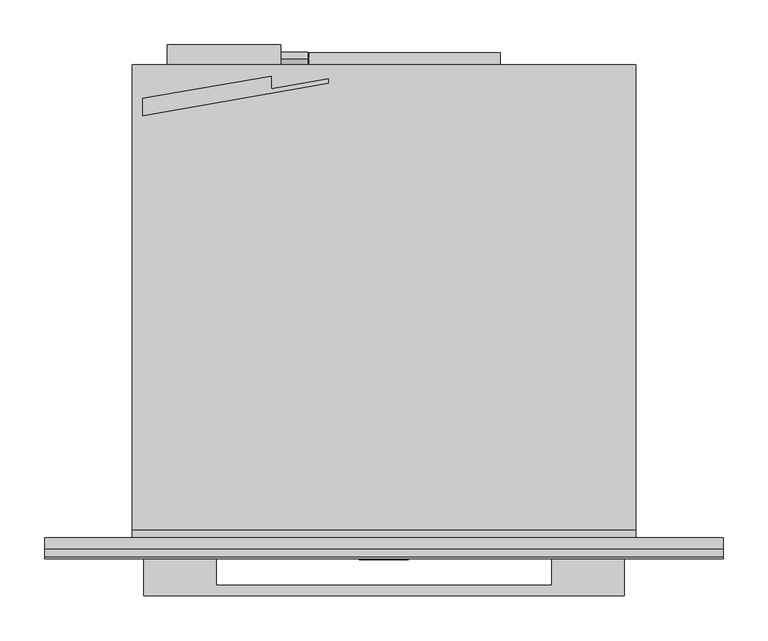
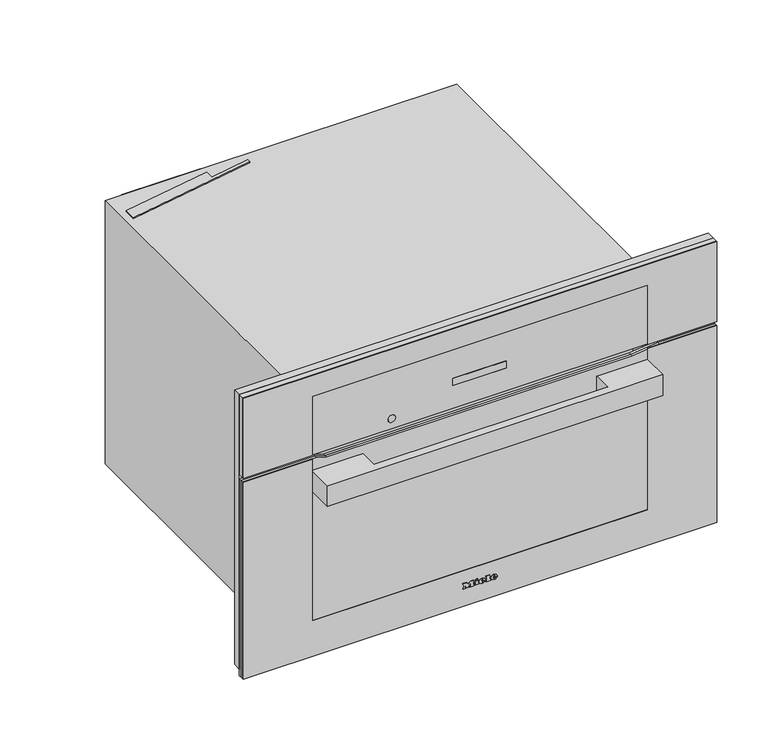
"""IFC4 building model written with IfcOpenShell, lengths in millimetres: proxy geometry, 11804470_USA_H7170BM_EDST-CLST : 22717046_USA_11804470_H7170BM_EDST-CLST."""

import ifcopenshell
import ifcopenshell.guid

model = None  # the IFC model being written
_history = None  # IfcOwnerHistory: only IFC2X3 demands one
_inside = {}  # id of a spatial element -> (the spatial element, [elements in it])
_under = {}  # id of a project, library or spatial element -> (it, [spatial elements below it])
_declared = {}  # id of a project -> (the project, [libraries it declares])
_typed = {}  # id of a type object -> (the type object, [elements of that type])
_made_of = {}  # id of a material, layer set ... -> (it, [elements and type objects made of it])


def new_model(schema):
    """Start an empty IFC model of exactly this schema.

    Asked for "IFC4X3", IfcOpenShell would pick the latest addendum, in which some entities
    have other attributes; the version numbers below select the first issue.
    IFC2X3 requires an IfcOwnerHistory on every rooted entity: one is made here for all.
    """
    global model, _history
    if schema == "IFC4X3":
        model = ifcopenshell.file(schema_version=(4, 3, 0, 0))
    else:
        model = ifcopenshell.file(schema=schema)
    _inside.clear()
    _under.clear()
    _declared.clear()
    _typed.clear()
    _made_of.clear()
    _history = None
    if model.schema == "IFC2X3":
        org = make("IfcOrganization", Name="unknown")
        user = make(
            "IfcPersonAndOrganization",
            ThePerson=make("IfcPerson", FamilyName="unknown"),
            TheOrganization=org,
        )
        app = make(
            "IfcApplication",
            ApplicationDeveloper=org,
            Version="unknown",
            ApplicationFullName="unknown",
            ApplicationIdentifier="unknown",
        )
        _history = make(
            "IfcOwnerHistory",
            OwningUser=user,
            OwningApplication=app,
            ChangeAction="ADDED",
            CreationDate=0,
        )
    return model


def make(cls, **values):
    """One entity of the class cls with the attributes given. An attribute that is None is left unset."""
    return model.create_entity(
        cls, **{name: value for name, value in values.items() if value is not None}
    )


def rooted(cls, **values):
    """An entity with a GlobalId (a new one), such as an element, a storey or a relation."""
    return make(cls, GlobalId=ifcopenshell.guid.new(), OwnerHistory=_history, **values)


def si_unit(unit_type, name, prefix=None):
    """IfcSIUnit, for example si_unit("LENGTHUNIT", "METRE", prefix="MILLI")."""
    return make("IfcSIUnit", UnitType=unit_type, Prefix=prefix, Name=name)


def assignment(units):
    """IfcUnitAssignment: the units of a project."""
    return None if units is None else make("IfcUnitAssignment", Units=units)


def point(xyz):
    """IfcCartesianPoint."""
    return None if xyz is None else make("IfcCartesianPoint", Coordinates=xyz)


def direction(xyz):
    """IfcDirection."""
    return None if xyz is None else make("IfcDirection", DirectionRatios=xyz)


def frame(location, z_axis=None, x_axis=None):
    """IfcAxis2Placement3D, a coordinate frame: its origin and axes. An axis left out is left unset."""
    return make(
        "IfcAxis2Placement3D",
        Location=point(location),
        Axis=direction(z_axis),
        RefDirection=direction(x_axis),
    )


def frame_2d(location, x_axis=None):
    """IfcAxis2Placement2D, a coordinate frame in the plane: its origin and x axis."""
    return make(
        "IfcAxis2Placement2D", Location=point(location), RefDirection=direction(x_axis)
    )


def origin():
    """The frame at (0, 0, 0) with its axes left unset."""
    return frame((0.0, 0.0, 0.0))


def place(relative_to, where):
    """IfcLocalPlacement: puts the frame where relative to a parent placement (None: the world)."""
    return make(
        "IfcLocalPlacement", PlacementRelTo=relative_to, RelativePlacement=where
    )


def context(
    kind, dimensions, precision=None, world=None, true_north=None, identifier=None
):
    """IfcGeometricRepresentationContext, for example the 3D "Model" context."""
    return make(
        "IfcGeometricRepresentationContext",
        ContextIdentifier=identifier,
        ContextType=kind,
        CoordinateSpaceDimension=dimensions,
        Precision=precision,
        WorldCoordinateSystem=world,
        TrueNorth=true_north,
    )


def project(units=None, contexts=None):
    """IfcProject with its units and contexts."""
    return rooted(
        "IfcProject",
        Name="project",
        RepresentationContexts=contexts,
        UnitsInContext=assignment(units),
    )


def spatial(cls, under=None, at=None, **own):
    """A site, building, storey or space (cls), placed at a placement, below another one or the project."""
    s = rooted(cls, ObjectPlacement=at, **own)
    if under is not None:
        _under.setdefault(under.id(), (under, []))[1].append(s)
    return s


def polyline(points):
    """IfcPolyline through the points."""
    return make("IfcPolyline", Points=[point(p) for p in points])


def circle_curve(where, radius):
    """IfcCircle in the frame where."""
    return make("IfcCircle", Position=where, Radius=radius)


def ellipse_curve(where, semi_axis1, semi_axis2):
    """IfcEllipse in the frame where."""
    return make(
        "IfcEllipse", Position=where, SemiAxis1=semi_axis1, SemiAxis2=semi_axis2
    )


def trimmed(basis, trim1, trim2, sense, master):
    """IfcTrimmedCurve: the piece of a basis curve between two trims."""
    return make(
        "IfcTrimmedCurve",
        BasisCurve=basis,
        Trim1=trim1,
        Trim2=trim2,
        SenseAgreement=sense,
        MasterRepresentation=master,
    )


def segment(curve, same_sense, transition):
    """IfcCompositeCurveSegment."""
    return make(
        "IfcCompositeCurveSegment",
        Transition=transition,
        SameSense=same_sense,
        ParentCurve=curve,
    )


def composite_curve(segments, self_intersect=None):
    """IfcCompositeCurve: segments joined end to end."""
    return make("IfcCompositeCurve", Segments=segments, SelfIntersect=self_intersect)


def outline(outer, holes=None, kind="AREA"):
    """IfcArbitraryClosedProfileDef: a profile drawn as a closed curve; with holes, ...WithVoids."""
    if holes is None:
        return make("IfcArbitraryClosedProfileDef", ProfileType=kind, OuterCurve=outer)
    return make(
        "IfcArbitraryProfileDefWithVoids",
        ProfileType=kind,
        OuterCurve=outer,
        InnerCurves=holes,
    )


def extrude(swept, where, along, depth):
    """IfcExtrudedAreaSolid: the profile swept, set in the frame where, extruded along a direction by depth."""
    return make(
        "IfcExtrudedAreaSolid",
        SweptArea=swept,
        Position=where,
        ExtrudedDirection=direction(along),
        Depth=depth,
    )


def faces_of(points, faces, orient=None, outer=None):
    """IfcFace entities. A face is a list of loops; a loop is a list of indices into points, from 0.

    orient and outer hold one flag for each loop. By default every Orientation is true, the
    first loop of a face is its IfcFaceOuterBound and the others are IfcFaceBound.
    """
    made = []
    for i, loops in enumerate(faces):
        bounds = []
        for j, loop in enumerate(loops):
            is_outer = j == 0 if outer is None else outer[i][j]
            bounds.append(
                make(
                    "IfcFaceOuterBound" if is_outer else "IfcFaceBound",
                    Bound=make("IfcPolyLoop", Polygon=[points[k] for k in loop]),
                    Orientation=True if orient is None else orient[i][j],
                )
            )
        made.append(make("IfcFace", Bounds=bounds))
    return made


def faceted_brep(points, faces, orient=None, outer=None, voids=None):
    """IfcFacetedBrep: a solid bounded by flat faces; with voids (closed shells), ...WithVoids."""
    shared = [point(p) for p in points]
    hull = make("IfcClosedShell", CfsFaces=faces_of(shared, faces, orient, outer))
    if voids is None:
        return make("IfcFacetedBrep", Outer=hull)
    return make(
        "IfcFacetedBrepWithVoids",
        Outer=hull,
        Voids=[
            make(cls, CfsFaces=faces_of(shared, fs, o, b)) for cls, fs, o, b in voids
        ],
    )


def shape(context_of_items, identifier, shape_type, items):
    """IfcShapeRepresentation: the items that make up one representation, for example the "Body"."""
    return make(
        "IfcShapeRepresentation",
        ContextOfItems=context_of_items,
        RepresentationIdentifier=identifier,
        RepresentationType=shape_type,
        Items=items,
    )


def source(mapping_origin, context_of_items, identifier, shape_type, items):
    """IfcRepresentationMap: a shape defined once, which mapped items show again and again."""
    return make(
        "IfcRepresentationMap",
        MappingOrigin=mapping_origin,
        MappedRepresentation=shape(context_of_items, identifier, shape_type, items),
    )


def transform(
    local_origin,
    x_axis=None,
    y_axis=None,
    z_axis=None,
    scale=None,
    scale2=None,
    scale3=None,
    uniform=True,
):
    """IfcCartesianTransformationOperator3D, or its non-uniform kind. x_axis, y_axis, z_axis: its Axis1, 2, 3."""
    if uniform:
        return make(
            "IfcCartesianTransformationOperator3D",
            Axis1=direction(x_axis),
            Axis2=direction(y_axis),
            LocalOrigin=point(local_origin),
            Scale=scale,
            Axis3=direction(z_axis),
        )
    return make(
        "IfcCartesianTransformationOperator3DnonUniform",
        Axis1=direction(x_axis),
        Axis2=direction(y_axis),
        LocalOrigin=point(local_origin),
        Scale=scale,
        Axis3=direction(z_axis),
        Scale2=scale2,
        Scale3=scale3,
    )


def mapped(mapping_source, mapping_target):
    """IfcMappedItem: shows the shape of a source again, moved by a transform."""
    return make(
        "IfcMappedItem", MappingSource=mapping_source, MappingTarget=mapping_target
    )


def made_of(thing, what):
    """Note that an element or type object is made of a material, layer set ...; save() writes the relation."""
    if what is not None:
        _made_of.setdefault(what.id(), (what, []))[1].append(thing)
    return thing


def element(
    cls,
    number,
    at=None,
    inside=None,
    cuts=None,
    type_object=None,
    material=None,
    context=None,
    identifier="Body",
    shape_type=None,
    held_by="IfcProductDefinitionShape",
    body=None,
    shapes=None,
    **own,
):
    """One element of the class cls, such as IfcWall. Its Tag is "e" and its number.

    at: its placement. inside: the storey or other place that contains it. cuts: it is an
    opening in that element (IfcRelVoidsElement). A single representation is given by context,
    identifier, shape_type and body (its items); several are given by shapes. held_by: the class
    of the entity that holds the representations. save() writes the other relations.
    """
    e = rooted(cls, Tag="e%d" % number, ObjectPlacement=at, **own)
    if body is not None:
        shapes = [shape(context, identifier, shape_type, body)]
    if shapes is not None:
        e.Representation = make(held_by, Representations=shapes)
    if inside is not None:
        _inside.setdefault(inside.id(), (inside, []))[1].append(e)
    if cuts is not None:
        rooted(
            "IfcRelVoidsElement", RelatingBuildingElement=cuts, RelatedOpeningElement=e
        )
    if type_object is not None:
        _typed.setdefault(type_object.id(), (type_object, []))[1].append(e)
    return made_of(e, material)


def aggregate(whole, parts):
    """IfcRelAggregates: a whole, such as a stair, and the parts it consists of."""
    return rooted("IfcRelAggregates", RelatingObject=whole, RelatedObjects=parts)


def save(model, path):
    """Write the relations noted so far, then the file.

    IfcRelAggregates (storeys below a building ...), IfcRelContainedInSpatialStructure (elements
    in a storey), IfcRelDefinesByType, IfcRelAssociatesMaterial and IfcRelDeclares: one each for
    every whole, place, type object, material and project.
    """
    for whole, parts in _under.values():
        aggregate(whole, parts)
    for where, things in _inside.values():
        rooted(
            "IfcRelContainedInSpatialStructure",
            RelatedElements=things,
            RelatingStructure=where,
        )
    for kind, things in _typed.values():
        rooted("IfcRelDefinesByType", RelatedObjects=things, RelatingType=kind)
    for what, things in _made_of.values():
        rooted("IfcRelAssociatesMaterial", RelatedObjects=things, RelatingMaterial=what)
    for by, libraries in _declared.values():
        rooted("IfcRelDeclares", RelatingContext=by, RelatedDefinitions=libraries)
    model.write(path)


def plane_surface(at):
    """IfcPlane: the flat surface through the origin of the frame at, square to its z axis."""
    return make("IfcPlane", Position=at)


def cylinder_surface(at, radius):
    """IfcCylindricalSurface: all points at the distance radius from the z axis of the frame at."""
    return make("IfcCylindricalSurface", Position=at, Radius=radius)


def revolved_surface(curve, axis_point, axis_direction):
    """IfcSurfaceOfRevolution: the curve turned about the line through axis_point along axis_direction."""
    return make(
        "IfcSurfaceOfRevolution",
        SweptCurve=make("IfcArbitraryOpenProfileDef", ProfileType="CURVE", Curve=curve),
        AxisPosition=make("IfcAxis1Placement", Location=point(axis_point), Axis=direction(axis_direction)),
    )


def extruded_surface(curve, direction_of_extrusion, depth):
    """IfcSurfaceOfLinearExtrusion: the curve pushed along a direction by depth."""
    return make(
        "IfcSurfaceOfLinearExtrusion",
        SweptCurve=make("IfcArbitraryOpenProfileDef", ProfileType="CURVE", Curve=curve),
        ExtrudedDirection=direction(direction_of_extrusion),
        Depth=depth,
    )


def advanced_brep(points, edges, surfaces, faces):
    """IfcAdvancedBrep: a solid bounded by faces that lie on surfaces and meet in shared edges.

    An edge is (start, end): straight between two places in points (the first is 0);
    or (start, end, curve); or (start, end, curve, False) where it runs against its curve.
    A face is (place in surfaces, loops), or (place, loops, False) where it looks against
    its surface's normal. A loop lists edges by number (the first is 1), with a minus sign
    where the edge is run from its end to its start. The first loop is the outer one.
    """
    corners = [point(p) for p in points]
    vertices = [make("IfcVertexPoint", VertexGeometry=c) for c in corners]
    made = []
    for start, end, *more in edges:
        made.append(
            make(
                "IfcEdgeCurve",
                EdgeStart=vertices[start],
                EdgeEnd=vertices[end],
                EdgeGeometry=more[0] if more else make("IfcPolyline", Points=[corners[start], corners[end]]),
                SameSense=more[1] if len(more) > 1 else True,
            )
        )
    hull = []
    for where, loops, *sense in faces:
        bounds = []
        for j, loop in enumerate(loops):
            ring = [make("IfcOrientedEdge", EdgeElement=made[abs(k) - 1], Orientation=k > 0) for k in loop]
            bounds.append(
                make(
                    "IfcFaceOuterBound" if j == 0 else "IfcFaceBound",
                    Bound=make("IfcEdgeLoop", EdgeList=ring),
                    Orientation=True,
                )
            )
        hull.append(make("IfcAdvancedFace", Bounds=bounds, FaceSurface=surfaces[where], SameSense=sense[0] if sense else True))
    return make("IfcAdvancedBrep", Outer=make("IfcClosedShell", CfsFaces=hull))


def specialty_equipment_035421ed(model_context):
    return source(origin(), model_context, "Body", "SolidModel", [
        advanced_brep(
        [(21.28, -24.3, 36.133), (21.28, -24.3, 37.042), (27.301, -24.3, 37.042), (16.825, -24.3, 37.042), (19.3, -24.3, 34.0), (27.148, -24.3, 36.133), (24.43, -24.3, 36.133), (22.288, -24.3, 35.125), (21.28, -24.3, 38.194), (21.28, -24.3, 39.175), (22.819, -24.3, 39.175), (22.819, -24.3, 38.194), (21.28, -23.3, 36.133), (22.288, -23.3, 35.125), (24.43, -23.3, 36.133), (27.148, -23.3, 36.133), (19.3, -23.3, 34.0), (16.825, -23.3, 37.042), (27.301, -23.3, 37.042), (21.28, -23.3, 37.042), (21.28, -23.3, 38.194), (22.819, -23.3, 38.194), (22.819, -23.3, 39.175), (21.28, -23.3, 39.175)],
        [
            (0, 1),
            (1, 2),
            (2, 3, ellipse_curve(frame((22.063, -24.3, 37.042), z_axis=(0.0, -1.0, 0.0), x_axis=(-1.0, 0.0, 0.0)), 5.238, 4.329)),
            (3, 4, circle_curve(frame((20.3080491, -24.3, 37.348), z_axis=(0.0, -1.0, 0.0), x_axis=(0.0, 0.0, -1.0)), 3.4964649)),
            (4, 5, circle_curve(frame((21.9581428, -24.3, 39.724), z_axis=(0.0, -1.0, 0.0), x_axis=(0.0, 0.0, -1.0)), 6.3110933)),
            (5, 6),
            (6, 7, circle_curve(frame((22.7279412, -24.3, 36.97), z_axis=(0.0, 1.0, 0.0), x_axis=(0.0, 0.0, -1.0)), 1.896727)),
            (7, 0, circle_curve(frame((22.288, -24.3, 36.133), z_axis=(0.0, 1.0, 0.0), x_axis=(0.0, 0.0, -1.0)), 1.008)),
            (8, 9),
            (9, 10, circle_curve(frame((22.0495, -24.3, 39.175), z_axis=(0.0, 1.0, 0.0), x_axis=(0.0, 0.0, -1.0)), 0.7695)),
            (10, 11),
            (11, 8),
            (12, 13, circle_curve(frame((22.288, -23.3, 36.133), z_axis=(0.0, -1.0, 0.0), x_axis=(0.0, 0.0, -1.0)), 1.008)),
            (13, 14, circle_curve(frame((22.7279412, -23.3, 36.97), z_axis=(0.0, -1.0, 0.0), x_axis=(0.0, 0.0, -1.0)), 1.896727)),
            (14, 15),
            (15, 16, circle_curve(frame((21.9581428, -23.3, 39.724), z_axis=(0.0, 1.0, 0.0), x_axis=(0.0, 0.0, -1.0)), 6.3110933)),
            (16, 17, circle_curve(frame((20.3080491, -23.3, 37.348), z_axis=(0.0, 1.0, 0.0), x_axis=(0.0, 0.0, -1.0)), 3.4964649)),
            (17, 18, ellipse_curve(frame((22.063, -23.3, 37.042), z_axis=(0.0, 1.0, 0.0), x_axis=(-1.0, 0.0, 0.0)), 5.238, 4.329)),
            (18, 19),
            (19, 12),
            (20, 21),
            (21, 22),
            (22, 23, circle_curve(frame((22.0495, -23.3, 39.175), z_axis=(0.0, -1.0, 0.0), x_axis=(0.0, 0.0, -1.0)), 0.7695)),
            (23, 20),
            (0, 12),
            (19, 1),
            (18, 2),
            (5, 15),
            (14, 6),
            (17, 3),
            (13, 7),
            (16, 4),
            (8, 20),
            (23, 9),
            (22, 10),
            (21, 11),
        ],
        [
            plane_surface(frame((21.28, -24.3, 37.042), z_axis=(0.0, -1.0, 0.0), x_axis=(0.0, 0.0, 1.0))),
            plane_surface(frame((21.28, -23.3, 37.042), z_axis=(0.0, 1.0, 0.0), x_axis=(0.0, 0.0, -1.0))),
            plane_surface(frame((21.28, -24.3, 36.133), z_axis=(1.0, 0.0, 0.0), x_axis=(0.0, 1.0, 0.0))),
            plane_surface(frame((21.28, -24.3, 37.042), z_axis=(0.0, 0.0, -1.0), x_axis=(0.0, 1.0, 0.0))),
            plane_surface(frame((27.148, -24.3, 36.133), z_axis=(0.0, 0.0, 1.0), x_axis=(0.0, 1.0, 0.0))),
            extruded_surface(trimmed(ellipse_curve(frame((22.063, -22.3, 37.042), z_axis=(0.0, -1.0, 0.0), x_axis=(-1.0, 0.0, 0.0)), 5.238, 4.329), [point((27.301, -22.3, 37.042))], [point((16.825, -22.3, 37.042))], True, "CARTESIAN"), (0.0, -1.0, 0.0), 1.0),
            revolved_surface(polyline([(22.7279412, -23.3, 35.073273), (22.7279412, -24.3, 35.073273)]), (22.7279412, -23.3, 36.97), (0.0, 1.0, 0.0)),
            revolved_surface(polyline([(22.288, -23.3, 35.125), (22.288, -24.3, 35.125)]), (22.288, -23.3, 36.133), (0.0, 1.0, 0.0)),
            cylinder_surface(frame((20.3080491, -23.3, 37.348), z_axis=(0.0, -1.0, 0.0), x_axis=(0.0, 0.0, -1.0)), 3.4964649),
            cylinder_surface(frame((21.9581428, -23.3, 39.724), z_axis=(0.0, -1.0, 0.0), x_axis=(0.0, 0.0, -1.0)), 6.3110933),
            plane_surface(frame((21.28, -24.3, 38.194), z_axis=(1.0, 0.0, 0.0), x_axis=(0.0, 1.0, 0.0))),
            revolved_surface(polyline([(22.0495, -23.3, 38.405499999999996), (22.0495, -24.3, 38.405499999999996)]), (22.0495, -23.3, 39.175), (0.0, 1.0, 0.0)),
            plane_surface(frame((22.819, -24.3, 39.175), z_axis=(-1.0, 0.0, 0.0), x_axis=(0.0, 1.0, 0.0))),
            plane_surface(frame((22.819, -24.3, 38.194), z_axis=(0.0, 0.0, 1.0), x_axis=(0.0, 1.0, 0.0))),
        ],
        [
            (0, [[1, 2, 3, 4, 5, 6, 7, 8], [9, 10, 11, 12]]),
            (1, [[13, 14, 15, 16, 17, 18, 19, 20], [21, 22, 23, 24]]),
            (2, [[-1, 25, -20, 26]]),
            (3, [[-2, -26, -19, 27]]),
            (4, [[-6, 28, -15, 29]]),
            (5, [[-3, -27, -18, 30]]),
            (6, [[-7, -29, -14, 31]]),
            (7, [[-8, -31, -13, -25]]),
            (8, [[-4, -30, -17, 32]]),
            (9, [[-5, -32, -16, -28]]),
            (10, [[-9, 33, -24, 34]]),
            (11, [[-10, -34, -23, 35]]),
            (12, [[-11, -35, -22, 36]]),
            (13, [[-12, -36, -21, -33]]),
        ],
    ),
        advanced_brep(
        [(2.497, -24.3, 36.133), (2.497, -24.3, 37.042), (8.518, -24.3, 37.042), (-1.958, -24.3, 37.042), (0.517, -24.3, 34.0), (8.365, -24.3, 36.133), (5.647, -24.3, 36.133), (3.505, -24.3, 35.125), (2.497, -24.3, 38.194), (2.497, -24.3, 39.175), (4.036, -24.3, 39.175), (4.036, -24.3, 38.194), (2.497, -23.3, 36.133), (3.505, -23.3, 35.125), (5.647, -23.3, 36.133), (8.365, -23.3, 36.133), (0.517, -23.3, 34.0), (-1.958, -23.3, 37.042), (8.518, -23.3, 37.042), (2.497, -23.3, 37.042), (2.497, -23.3, 38.194), (4.036, -23.3, 38.194), (4.036, -23.3, 39.175), (2.497, -23.3, 39.175)],
        [
            (0, 1),
            (1, 2),
            (2, 3, ellipse_curve(frame((3.28, -24.3, 37.042), z_axis=(0.0, -1.0, 0.0), x_axis=(-1.0, 0.0, 0.0)), 5.238, 4.329)),
            (3, 4, circle_curve(frame((1.5250491, -24.3, 37.348), z_axis=(0.0, -1.0, 0.0), x_axis=(0.0, 0.0, -1.0)), 3.4964649)),
            (4, 5, circle_curve(frame((3.1751428, -24.3, 39.724), z_axis=(0.0, -1.0, 0.0), x_axis=(0.0, 0.0, -1.0)), 6.3110933)),
            (5, 6),
            (6, 7, circle_curve(frame((3.9449412, -24.3, 36.97), z_axis=(0.0, 1.0, 0.0), x_axis=(0.0, 0.0, -1.0)), 1.896727)),
            (7, 0, circle_curve(frame((3.505, -24.3, 36.133), z_axis=(0.0, 1.0, 0.0), x_axis=(0.0, 0.0, -1.0)), 1.008)),
            (8, 9),
            (9, 10, circle_curve(frame((3.2665, -24.3, 39.175), z_axis=(0.0, 1.0, 0.0), x_axis=(0.0, 0.0, -1.0)), 0.7695)),
            (10, 11),
            (11, 8),
            (12, 13, circle_curve(frame((3.505, -23.3, 36.133), z_axis=(0.0, -1.0, 0.0), x_axis=(0.0, 0.0, -1.0)), 1.008)),
            (13, 14, circle_curve(frame((3.9449412, -23.3, 36.97), z_axis=(0.0, -1.0, 0.0), x_axis=(0.0, 0.0, -1.0)), 1.896727)),
            (14, 15),
            (15, 16, circle_curve(frame((3.1751428, -23.3, 39.724), z_axis=(0.0, 1.0, 0.0), x_axis=(0.0, 0.0, -1.0)), 6.3110933)),
            (16, 17, circle_curve(frame((1.5250491, -23.3, 37.348), z_axis=(0.0, 1.0, 0.0), x_axis=(0.0, 0.0, -1.0)), 3.4964649)),
            (17, 18, ellipse_curve(frame((3.28, -23.3, 37.042), z_axis=(0.0, 1.0, 0.0), x_axis=(-1.0, 0.0, 0.0)), 5.238, 4.329)),
            (18, 19),
            (19, 12),
            (20, 21),
            (21, 22),
            (22, 23, circle_curve(frame((3.2665, -23.3, 39.175), z_axis=(0.0, -1.0, 0.0), x_axis=(0.0, 0.0, -1.0)), 0.7695)),
            (23, 20),
            (0, 12),
            (19, 1),
            (18, 2),
            (5, 15),
            (14, 6),
            (17, 3),
            (13, 7),
            (16, 4),
            (8, 20),
            (23, 9),
            (22, 10),
            (21, 11),
        ],
        [
            plane_surface(frame((2.497, -24.3, 37.042), z_axis=(0.0, -1.0, 0.0), x_axis=(0.0, 0.0, 1.0))),
            plane_surface(frame((2.497, -23.3, 37.042), z_axis=(0.0, 1.0, 0.0), x_axis=(0.0, 0.0, -1.0))),
            plane_surface(frame((2.497, -24.3, 36.133), z_axis=(1.0, 0.0, 0.0), x_axis=(0.0, 1.0, 0.0))),
            plane_surface(frame((2.497, -24.3, 37.042), z_axis=(0.0, 0.0, -1.0), x_axis=(0.0, 1.0, 0.0))),
            plane_surface(frame((8.365, -24.3, 36.133), z_axis=(0.0, 0.0, 1.0), x_axis=(0.0, 1.0, 0.0))),
            extruded_surface(trimmed(ellipse_curve(frame((3.28, -22.3, 37.042), z_axis=(0.0, -1.0, 0.0), x_axis=(-1.0, 0.0, 0.0)), 5.238, 4.329), [point((8.518, -22.3, 37.042))], [point((-1.958, -22.3, 37.042))], True, "CARTESIAN"), (0.0, -1.0, 0.0), 1.0),
            revolved_surface(polyline([(3.9449412, -23.3, 35.073273), (3.9449412, -24.3, 35.073273)]), (3.9449412, -23.3, 36.97), (0.0, 1.0, 0.0)),
            revolved_surface(polyline([(3.505, -23.3, 35.125), (3.505, -24.3, 35.125)]), (3.505, -23.3, 36.133), (0.0, 1.0, 0.0)),
            cylinder_surface(frame((1.5250491, -23.3, 37.348), z_axis=(0.0, -1.0, 0.0), x_axis=(0.0, 0.0, -1.0)), 3.4964649),
            cylinder_surface(frame((3.1751428, -23.3, 39.724), z_axis=(0.0, -1.0, 0.0), x_axis=(0.0, 0.0, -1.0)), 6.3110933),
            plane_surface(frame((2.497, -24.3, 38.194), z_axis=(1.0, 0.0, 0.0), x_axis=(0.0, 1.0, 0.0))),
            revolved_surface(polyline([(3.2665, -23.3, 38.405499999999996), (3.2665, -24.3, 38.405499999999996)]), (3.2665, -23.3, 39.175), (0.0, 1.0, 0.0)),
            plane_surface(frame((4.036, -24.3, 39.175), z_axis=(-1.0, 0.0, 0.0), x_axis=(0.0, 1.0, 0.0))),
            plane_surface(frame((4.036, -24.3, 38.194), z_axis=(0.0, 0.0, 1.0), x_axis=(0.0, 1.0, 0.0))),
        ],
        [
            (0, [[1, 2, 3, 4, 5, 6, 7, 8], [9, 10, 11, 12]]),
            (1, [[13, 14, 15, 16, 17, 18, 19, 20], [21, 22, 23, 24]]),
            (2, [[-1, 25, -20, 26]]),
            (3, [[-2, -26, -19, 27]]),
            (4, [[-6, 28, -15, 29]]),
            (5, [[-3, -27, -18, 30]]),
            (6, [[-7, -29, -14, 31]]),
            (7, [[-8, -31, -13, -25]]),
            (8, [[-4, -30, -17, 32]]),
            (9, [[-5, -32, -16, -28]]),
            (10, [[-9, 33, -24, 34]]),
            (11, [[-10, -34, -23, 35]]),
            (12, [[-11, -35, -22, 36]]),
            (13, [[-12, -36, -21, -33]]),
        ],
    ),
        extrude(outline(polyline([(42.469, -7.34), (41.011, -6.656), (42.433, -3.605), (43.891, -4.28), (42.469, -7.34)])), frame((0.0, -24.3, 0.0), z_axis=(0.0, 1.0, 0.0), x_axis=(0.0, 0.0, 1.0)), (0.0, 0.0, 1.0), 1.0),
        extrude(outline(polyline([(40.813, -9.563), (39.202, -9.563), (39.202, -8.492), (35.512, -8.492), (35.512, -9.563), (34.0, -9.563), (34.0, -2.462), (35.512, -2.462), (35.512, -3.506), (40.813, -3.506), (40.813, -9.563)])), frame((0.0, -24.3, 0.0), z_axis=(0.0, 1.0, 0.0), x_axis=(0.0, 0.0, 1.0)), (0.0, 0.0, 1.0), 1.0),
        extrude(outline(polyline([(41.533, 9.022), (41.533, 10.102), (35.512, 10.102), (35.512, 9.022), (34.0, 9.022), (34.0, 16.321), (35.512, 16.321), (35.512, 15.214), (43.0, 15.214), (43.0, 9.022), (41.533, 9.022)])), frame((0.0, -24.3, 0.0), z_axis=(0.0, 1.0, 0.0), x_axis=(0.0, 0.0, 1.0)), (0.0, 0.0, 1.0), 1.0),
        extrude(outline(polyline([(41.533, -27.5), (41.533, -26.411), (35.512, -26.411), (35.512, -27.5), (34.0, -27.5), (34.0, -23.54), (35.512, -23.54), (35.512, -24.62), (39.3341247, -24.62), (34.0, -20.597), (39.4402223, -16.556), (35.512, -16.556), (35.512, -17.663), (34.0, -17.663), (34.0, -10.481), (35.512, -10.481), (35.512, -11.624), (41.533, -11.624), (41.533, -10.481), (43.0, -10.481), (43.0, -15.962), (39.625, -18.59), (43.0, -21.227), (43.0, -27.5), (41.533, -27.5)])), frame((0.0, -24.3, 0.0), z_axis=(0.0, 1.0, 0.0), x_axis=(0.0, 0.0, 1.0)), (0.0, 0.0, 1.0), 1.0),
        extrude(outline(polyline([(337.0, -268.5), (337.0, -378.5), (4.0, -378.5), (4.0, 378.5), (337.0, 378.5), (337.0, 268.5), (64.0, 268.5), (64.0, -268.5), (337.0, -268.5)])), frame((0.0, -23.3, 0.0), z_axis=(0.0, 1.0, 0.0), x_axis=(0.0, 0.0, 1.0)), (0.0, 0.0, 1.0), 1.3),
        extrude(outline(polyline([(337.0, -378.5), (4.0, -378.5), (4.0, 378.5), (337.0, 378.5), (337.0, 287.3542631), (332.0, 244.0), (332.0, -244.0), (337.0, -260.3542631), (337.0, -378.5)])), frame((0.0, -22.0, 0.0), z_axis=(0.0, 1.0, 0.0), x_axis=(0.0, 0.0, 1.0)), (0.0, 0.0, 1.0), 4.0),
        extrude(outline(polyline([(-187.0, -22.0), (-187.0, -53.0), (187.0, -53.0), (187.0, -22.0), (268.0, -22.0), (268.0, -65.0), (-268.0, -65.0), (-268.0, -22.0), (-187.0, -22.0)])), frame((0.0, 0.0, 283.0), z_axis=(0.0, 0.0, 1.0), x_axis=(1.0, 0.0, 0.0)), (0.0, 0.0, 1.0), 35.0),
        extrude(outline(polyline([(337.0, -378.5), (4.0, -378.5), (4.0, 378.5), (337.0, 378.5), (337.0, 287.3542631), (332.0, 244.0), (332.0, -244.0), (337.0, -260.3542631), (337.0, -378.5)])), frame((0.0, -18.0, 0.0), z_axis=(0.0, 1.0, 0.0), x_axis=(0.0, 0.0, 1.0)), (0.0, 0.0, 1.0), 5.0),
        extrude(outline(polyline([(-199.5, -18.0), (199.5, -18.0), (199.5, -22.0), (-199.5, -22.0), (-199.5, -18.0)])), frame((0.0, 0.0, 82.0), z_axis=(0.0, 0.0, 1.0), x_axis=(1.0, 0.0, 0.0)), (0.0, 0.0, 1.0), 170.0),
        extrude(outline(polyline([(479.0, -378.5), (344.0, -378.5), (344.0, -268.5), (444.0, -268.5), (444.0, 268.5), (344.0, 268.5), (344.0, 378.5), (479.0, 378.5), (479.0, -378.5)])), frame((0.0, -23.3, 0.0), z_axis=(0.0, 1.0, 0.0), x_axis=(0.0, 0.0, 1.0)), (0.0, 0.0, 1.0), 1.3),
        extrude(outline(polyline([(-42.5, -21.0), (42.5, -21.0), (42.5, -22.0), (-42.5, -22.0), (-42.5, -21.0)])), frame((0.0, 0.0, 382.5), z_axis=(0.0, 0.0, 1.0), x_axis=(1.0, 0.0, 0.0)), (0.0, 0.0, 1.0), 12.0),
        faceted_brep([(378.5, -22.0, 479.0), (-378.5, -22.0, 479.0), (-378.5, -22.0, 344.0), (378.5, -22.0, 344.0), (42.5, -22.0, 394.5), (42.5, -22.0, 382.5), (-42.5, -22.0, 382.5), (-42.5, -22.0, 394.5), (378.5, -13.0, 479.0), (378.5, -13.0, 344.0), (-378.5, -13.0, 344.0), (-378.5, -13.0, 479.0), (42.5, -21.0, 394.5), (-42.5, -21.0, 394.5), (-42.5, -21.0, 382.5), (42.5, -21.0, 382.5)], [[[0, 1, 2, 3], [4, 5, 6, 7]], [[8, 9, 10, 11]], [[1, 0, 8, 11]], [[2, 1, 11, 10]], [[3, 2, 10, 9]], [[0, 3, 9, 8]], [[12, 13, 14, 15]], [[12, 15, 5, 4]], [[15, 14, 6, 5]], [[14, 13, 7, 6]], [[13, 12, 4, 7]]]),
        extrude(outline(composite_curve([segment(trimmed(circle_curve(frame_2d((361.0, -140.5745637)), 6.0), [point((361.0, -146.5745637))], [point((361.0, -134.5745637))], False, "CARTESIAN"), True, "CONTINUOUS"), segment(trimmed(circle_curve(frame_2d((361.0, -140.5745637)), 6.0), [point((361.0, -134.5745637))], [point((361.0, -146.5745637))], False, "CARTESIAN"), True, "CONTINUOUS")], self_intersect=False)), frame((0.0, -22.5, 0.0), z_axis=(0.0, 1.0, 0.0), x_axis=(0.0, 0.0, 1.0)), (0.0, 0.0, 1.0), 1.0),
        extrude(outline(polyline([(-269.0, 490.2851942), (-126.0, 515.1547594), (-126.0, 500.9446163), (-62.0, 512.0750511), (-62.0, 507.0), (-269.0, 471.0), (-269.0, 490.2851942)])), frame((0.0, 0.0, 445.0), z_axis=(0.0, 0.0, 1.0), x_axis=(1.0, 0.0, 0.0)), (0.0, 0.0, 1.0), 2.0),
        extrude(outline(polyline([(528.134837, 358.3256163), (533.9911721, 358.3256163), (533.9911721, 357.3256163), (529.134837, 357.3256163), (529.134837, 353.8256163), (532.0849866, 353.8256163), (532.0849866, 352.8256163), (529.134837, 352.8256163), (529.134837, 349.3256163), (533.9911721, 349.3256163), (533.9911721, 348.3256163), (528.134837, 348.3256163), (528.134837, 358.3256163)])), frame((-85.0, 0.0, 0.0), z_axis=(1.0, 0.0, 0.0), x_axis=(0.0, 1.0, 0.0)), (0.0, 0.0, 1.0), 1.0),
        extrude(outline(polyline([(535.4911721, 348.3256163), (535.4911721, 358.3256163), (536.5959622, 358.3256163), (536.5959622, 349.3256163), (540.4911721, 349.3256163), (540.4911721, 348.3256163), (535.4911721, 348.3256163)])), frame((-85.0, 0.0, 0.0), z_axis=(1.0, 0.0, 0.0), x_axis=(0.0, 1.0, 0.0)), (0.0, 0.0, 1.0), 1.0),
        extrude(outline(composite_curve([segment(trimmed(circle_curve(frame_2d((534.0, 353.0)), 7.5), [point((534.0, 345.5))], [point((534.0, 360.5))], False, "CARTESIAN"), True, "CONTINUOUS"), segment(trimmed(circle_curve(frame_2d((534.0, 353.0)), 7.5), [point((534.0, 360.5))], [point((534.0, 345.5))], False, "CARTESIAN"), True, "CONTINUOUS")], self_intersect=False)), frame((-115.0, 0.0, 0.0), z_axis=(1.0, 0.0, 0.0), x_axis=(0.0, 1.0, 0.0)), (0.0, 0.0, 1.0), 30.0),
        extrude(outline(polyline([(-115.0, 528.0), (-242.0, 528.0), (-242.0, 550.0), (-115.0, 550.0), (-115.0, 528.0)])), frame((0.0, 0.0, 325.0), z_axis=(0.0, 0.0, 1.0), x_axis=(1.0, 0.0, 0.0)), (0.0, 0.0, 1.0), 103.0),
        faceted_brep([(272.5, 25.0, 344.0), (-272.5, 25.0, 344.0), (-272.5, 25.0, 15.0), (272.5, 25.0, 15.0), (-235.0, 25.0, 270.0), (235.0, 25.0, 270.0), (235.0, 25.0, 60.0), (-235.0, 25.0, 60.0), (272.5, 0.0, 344.0), (-272.5, 0.0, 344.0), (-272.5, 0.0, 15.0), (272.5, 0.0, 15.0), (281.0, 0.0, 0.0), (281.0, 528.0, 0.0), (281.0, 528.0, 445.0), (281.0, 9.0, 445.0), (281.0, 9.0, 440.0), (281.0, 0.0, 440.0), (-281.0, 9.0, 445.0), (-281.0, 528.0, 445.0), (-281.0, 528.0, 0.0), (-281.0, 0.0, 0.0), (-281.0, 0.0, 440.0), (-281.0, 9.0, 440.0), (235.0, 433.0, 270.0), (-235.0, 433.0, 270.0), (-235.0, 433.0, 60.0), (235.0, 433.0, 60.0)], [[[0, 1, 2, 3], [4, 5, 6, 7]], [[1, 0, 8, 9]], [[2, 1, 9, 10]], [[0, 3, 11, 8]], [[12, 13, 14, 15, 16, 17]], [[18, 19, 20, 21, 22, 23]], [[13, 12, 21, 20]], [[14, 13, 20, 19]], [[15, 14, 19, 18]], [[21, 12, 17, 22], [9, 8, 11, 10]], [[24, 25, 26, 27]], [[25, 24, 5, 4]], [[26, 25, 4, 7]], [[27, 26, 7, 6]], [[24, 27, 6, 5]], [[3, 2, 10, 11]], [[16, 23, 22, 17]], [[23, 16, 15, 18]]]),
        extrude(outline(polyline([(130.0, 528.0), (-130.0, 528.0), (-130.0, 541.0), (130.0, 541.0), (130.0, 528.0)])), frame((0.0, 0.0, 36.0), z_axis=(0.0, 0.0, 1.0), x_axis=(1.0, 0.0, 0.0)), (0.0, 0.0, 1.0), 260.0),
        extrude(outline(polyline([(15.0, 378.5), (479.0, 378.5), (479.0, -378.5), (15.0, -378.5), (15.0, -272.5), (344.0, -272.5), (344.0, 272.5), (15.0, 272.5), (15.0, 378.5)])), frame((0.0, -13.0, 0.0), z_axis=(0.0, 1.0, 0.0), x_axis=(0.0, 0.0, 1.0)), (0.0, 0.0, 1.0), 13.0),
    ])


if __name__ == "__main__":
    model = new_model("IFC4")
    model_context = context("Model", 3, world=origin())
    ifc_project = project(units=[si_unit("LENGTHUNIT", "METRE", prefix="MILLI")], contexts=[model_context])
    site = spatial("IfcSite", under=ifc_project)
    building = spatial("IfcBuilding", under=site)
    placement = place(None, origin())
    specialty_equipment_shape = specialty_equipment_035421ed(model_context)
    element("IfcBuildingElementProxy", 1, Name="11804470_USA_H7170BM_EDST-CLST : 22717046_USA_11804470_H7170BM_EDST-CLST", ObjectType="11804470_USA_H7170BM_EDST-CLST : 22717046_USA_11804470_H7170BM_EDST-CLST", at=placement, inside=building, context=model_context, shape_type="MappedRepresentation", body=[
        mapped(specialty_equipment_shape, transform((0.0, 0.0, 0.0), x_axis=(1.0, 0.0, 0.0), y_axis=(0.0, 1.0, 0.0), z_axis=(0.0, 0.0, 1.0))),
    ])
    save(model, "model.ifc")
